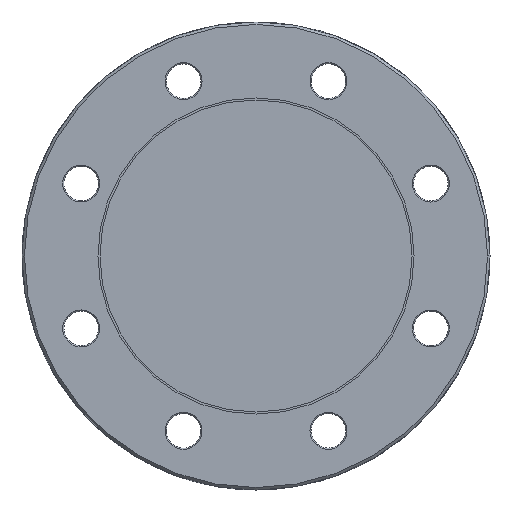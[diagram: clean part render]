
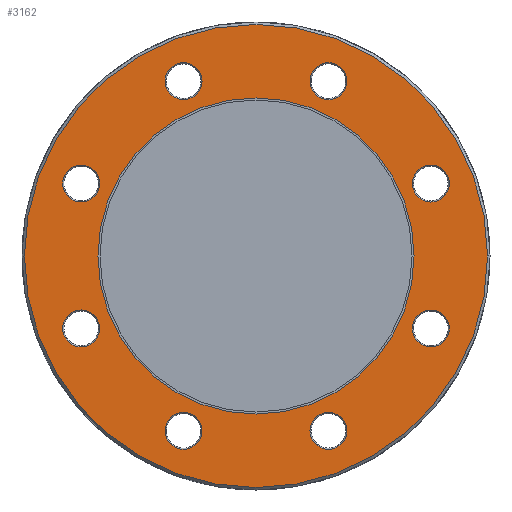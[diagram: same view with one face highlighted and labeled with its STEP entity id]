
A CAD part, left-side view. The second image highlights one B-rep face of the part: STEP entity #3162.
In plain terms, the highlighted planar face has unit normal (-1, 0, 0).
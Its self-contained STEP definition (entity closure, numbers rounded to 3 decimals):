
#1129=CARTESIAN_POINT('',(0.0,14.459,-45.773));
#1130=VERTEX_POINT('',#1129);
#1146=CARTESIAN_POINT('',(0.0,20.823,-39.409));
#1147=VERTEX_POINT('',#1146);
#1154=CARTESIAN_POINT('',(0.0,17.641,-42.591));
#1155=DIRECTION('',(-1.,0.0,0.0));
#1156=DIRECTION('',(0.0,-0.707,-0.707));
#1157=AXIS2_PLACEMENT_3D('',#1154,#1155,#1156);
#1158=CIRCLE('',#1157,4.5);
#1159=EDGE_CURVE('',#1147,#1130,#1158,.T.);
#1268=CARTESIAN_POINT('',(0.0,-22.142,-42.591));
#1269=VERTEX_POINT('',#1268);
#1285=CARTESIAN_POINT('',(0.0,-13.142,-42.591));
#1286=VERTEX_POINT('',#1285);
#1293=CARTESIAN_POINT('',(0.0,-17.642,-42.591));
#1294=DIRECTION('',(-1.0,0.0,0.0));
#1295=DIRECTION('',(0.0,-1.0,0.0));
#1296=AXIS2_PLACEMENT_3D('',#1293,#1294,#1295);
#1297=CIRCLE('',#1296,4.5);
#1298=EDGE_CURVE('',#1286,#1269,#1297,.T.);
#1407=CARTESIAN_POINT('',(0.0,-45.773,-14.46));
#1408=VERTEX_POINT('',#1407);
#1424=CARTESIAN_POINT('',(0.0,-39.409,-20.824));
#1425=VERTEX_POINT('',#1424);
#1432=CARTESIAN_POINT('',(0.0,-42.591,-17.642));
#1433=DIRECTION('',(-1.,0.0,0.0));
#1434=DIRECTION('',(0.0,-0.707,0.707));
#1435=AXIS2_PLACEMENT_3D('',#1432,#1433,#1434);
#1436=CIRCLE('',#1435,4.5);
#1437=EDGE_CURVE('',#1425,#1408,#1436,.T.);
#1546=CARTESIAN_POINT('',(0.0,-42.591,22.142));
#1547=VERTEX_POINT('',#1546);
#1563=CARTESIAN_POINT('',(0.0,-42.591,13.142));
#1564=VERTEX_POINT('',#1563);
#1571=CARTESIAN_POINT('',(0.0,-42.591,17.642));
#1572=DIRECTION('',(-1.0,0.0,0.0));
#1573=DIRECTION('',(0.0,0.0,1.0));
#1574=AXIS2_PLACEMENT_3D('',#1571,#1572,#1573);
#1575=CIRCLE('',#1574,4.5);
#1576=EDGE_CURVE('',#1564,#1547,#1575,.T.);
#1685=CARTESIAN_POINT('',(0.0,-14.46,45.773));
#1686=VERTEX_POINT('',#1685);
#1702=CARTESIAN_POINT('',(0.0,-20.824,39.409));
#1703=VERTEX_POINT('',#1702);
#1710=CARTESIAN_POINT('',(0.0,-17.642,42.591));
#1711=DIRECTION('',(-1.0,0.0,0.0));
#1712=DIRECTION('',(0.0,0.707,0.707));
#1713=AXIS2_PLACEMENT_3D('',#1710,#1711,#1712);
#1714=CIRCLE('',#1713,4.5);
#1715=EDGE_CURVE('',#1703,#1686,#1714,.T.);
#1824=CARTESIAN_POINT('',(0.0,22.141,42.591));
#1825=VERTEX_POINT('',#1824);
#1841=CARTESIAN_POINT('',(0.0,13.141,42.591));
#1842=VERTEX_POINT('',#1841);
#1849=CARTESIAN_POINT('',(0.0,17.641,42.591));
#1850=DIRECTION('',(-1.0,0.0,0.0));
#1851=DIRECTION('',(0.0,1.0,0.0));
#1852=AXIS2_PLACEMENT_3D('',#1849,#1850,#1851);
#1853=CIRCLE('',#1852,4.5);
#1854=EDGE_CURVE('',#1842,#1825,#1853,.T.);
#1963=CARTESIAN_POINT('',(0.0,45.772,14.46));
#1964=VERTEX_POINT('',#1963);
#1980=CARTESIAN_POINT('',(0.0,39.408,20.824));
#1981=VERTEX_POINT('',#1980);
#1988=CARTESIAN_POINT('',(0.0,42.59,17.642));
#1989=DIRECTION('',(-1.,0.0,0.0));
#1990=DIRECTION('',(0.0,0.707,-0.707));
#1991=AXIS2_PLACEMENT_3D('',#1988,#1989,#1990);
#1992=CIRCLE('',#1991,4.5);
#1993=EDGE_CURVE('',#1981,#1964,#1992,.T.);
#2102=CARTESIAN_POINT('',(0.0,42.59,-22.142));
#2103=VERTEX_POINT('',#2102);
#2119=CARTESIAN_POINT('',(0.0,42.59,-13.142));
#2120=VERTEX_POINT('',#2119);
#2127=CARTESIAN_POINT('',(0.0,42.59,-17.642));
#2128=DIRECTION('',(-1.0,0.0,0.0));
#2129=DIRECTION('',(0.0,0.0,-1.0));
#2130=AXIS2_PLACEMENT_3D('',#2127,#2128,#2129);
#2131=CIRCLE('',#2130,4.5);
#2132=EDGE_CURVE('',#2120,#2103,#2131,.T.);
#2326=CARTESIAN_POINT('',(0.0,-56.4,0.));
#2327=VERTEX_POINT('',#2326);
#2334=CARTESIAN_POINT('',(0.0,56.4,0.));
#2335=VERTEX_POINT('',#2334);
#2336=CARTESIAN_POINT('',(0.0,0.,0.0));
#2337=DIRECTION('',(1.0,0.0,0.0));
#2338=DIRECTION('',(0.0,-1.0,0.0));
#2339=AXIS2_PLACEMENT_3D('',#2336,#2337,#2338);
#2340=CIRCLE('',#2339,56.4);
#2341=EDGE_CURVE('',#2327,#2335,#2340,.T.);
#2396=CARTESIAN_POINT('',(0.0,38.5,0.0));
#2397=VERTEX_POINT('',#2396);
#2406=CARTESIAN_POINT('',(0.0,-38.5,0.));
#2407=VERTEX_POINT('',#2406);
#2408=CARTESIAN_POINT('',(0.0,0.,0.0));
#2409=DIRECTION('',(1.0,0.0,0.0));
#2410=DIRECTION('',(0.0,1.0,0.0));
#2411=AXIS2_PLACEMENT_3D('',#2408,#2409,#2410);
#2412=CIRCLE('',#2411,38.5);
#2413=EDGE_CURVE('',#2407,#2397,#2412,.T.);
#2447=CARTESIAN_POINT('',(0.0,0.,0.0));
#2448=DIRECTION('',(1.0,0.0,0.0));
#2449=DIRECTION('',(0.0,1.0,0.0));
#2450=AXIS2_PLACEMENT_3D('',#2447,#2448,#2449);
#2451=CIRCLE('',#2450,38.5);
#2452=EDGE_CURVE('',#2397,#2407,#2451,.T.);
#2509=CARTESIAN_POINT('',(0.0,0.,0.0));
#2510=DIRECTION('',(1.0,0.0,0.0));
#2511=DIRECTION('',(0.0,-1.0,0.0));
#2512=AXIS2_PLACEMENT_3D('',#2509,#2510,#2511);
#2513=CIRCLE('',#2512,56.4);
#2514=EDGE_CURVE('',#2335,#2327,#2513,.T.);
#2621=CARTESIAN_POINT('',(0.0,42.59,-17.642));
#2622=DIRECTION('',(-1.0,0.0,0.0));
#2623=DIRECTION('',(0.0,0.0,-1.0));
#2624=AXIS2_PLACEMENT_3D('',#2621,#2622,#2623);
#2625=CIRCLE('',#2624,4.5);
#2626=EDGE_CURVE('',#2103,#2120,#2625,.T.);
#2690=CARTESIAN_POINT('',(0.0,42.59,17.642));
#2691=DIRECTION('',(-1.,0.0,0.0));
#2692=DIRECTION('',(0.0,0.707,-0.707));
#2693=AXIS2_PLACEMENT_3D('',#2690,#2691,#2692);
#2694=CIRCLE('',#2693,4.5);
#2695=EDGE_CURVE('',#1964,#1981,#2694,.T.);
#2759=CARTESIAN_POINT('',(0.0,17.641,42.591));
#2760=DIRECTION('',(-1.0,0.0,0.0));
#2761=DIRECTION('',(0.0,1.0,0.0));
#2762=AXIS2_PLACEMENT_3D('',#2759,#2760,#2761);
#2763=CIRCLE('',#2762,4.5);
#2764=EDGE_CURVE('',#1825,#1842,#2763,.T.);
#2828=CARTESIAN_POINT('',(0.0,-17.642,42.591));
#2829=DIRECTION('',(-1.0,0.0,0.0));
#2830=DIRECTION('',(0.0,0.707,0.707));
#2831=AXIS2_PLACEMENT_3D('',#2828,#2829,#2830);
#2832=CIRCLE('',#2831,4.5);
#2833=EDGE_CURVE('',#1686,#1703,#2832,.T.);
#2897=CARTESIAN_POINT('',(0.0,-42.591,17.642));
#2898=DIRECTION('',(-1.0,0.0,0.0));
#2899=DIRECTION('',(0.0,0.0,1.0));
#2900=AXIS2_PLACEMENT_3D('',#2897,#2898,#2899);
#2901=CIRCLE('',#2900,4.5);
#2902=EDGE_CURVE('',#1547,#1564,#2901,.T.);
#2966=CARTESIAN_POINT('',(0.0,-42.591,-17.642));
#2967=DIRECTION('',(-1.,0.0,0.0));
#2968=DIRECTION('',(0.0,-0.707,0.707));
#2969=AXIS2_PLACEMENT_3D('',#2966,#2967,#2968);
#2970=CIRCLE('',#2969,4.5);
#2971=EDGE_CURVE('',#1408,#1425,#2970,.T.);
#3035=CARTESIAN_POINT('',(0.0,-17.642,-42.591));
#3036=DIRECTION('',(-1.0,0.0,0.0));
#3037=DIRECTION('',(0.0,-1.0,0.0));
#3038=AXIS2_PLACEMENT_3D('',#3035,#3036,#3037);
#3039=CIRCLE('',#3038,4.5);
#3040=EDGE_CURVE('',#1269,#1286,#3039,.T.);
#3111=CARTESIAN_POINT('',(0.0,47.75,0.0));
#3112=DIRECTION('',(-1.0,0.0,0.0));
#3113=DIRECTION('',(0.0,0.0,1.0));
#3114=AXIS2_PLACEMENT_3D('',#3111,#3112,#3113);
#3115=PLANE('',#3114);
#3116=ORIENTED_EDGE('',*,*,#2514,.F.);
#3117=ORIENTED_EDGE('',*,*,#2341,.F.);
#3118=EDGE_LOOP('',(#3116,#3117));
#3119=FACE_OUTER_BOUND('',#3118,.T.);
#3120=ORIENTED_EDGE('',*,*,#1298,.F.);
#3121=ORIENTED_EDGE('',*,*,#3040,.F.);
#3122=EDGE_LOOP('',(#3120,#3121));
#3123=FACE_BOUND('',#3122,.T.);
#3124=ORIENTED_EDGE('',*,*,#1576,.F.);
#3125=ORIENTED_EDGE('',*,*,#2902,.F.);
#3126=EDGE_LOOP('',(#3124,#3125));
#3127=FACE_BOUND('',#3126,.T.);
#3128=ORIENTED_EDGE('',*,*,#1854,.F.);
#3129=ORIENTED_EDGE('',*,*,#2764,.F.);
#3130=EDGE_LOOP('',(#3128,#3129));
#3131=FACE_BOUND('',#3130,.T.);
#3132=ORIENTED_EDGE('',*,*,#2132,.F.);
#3133=ORIENTED_EDGE('',*,*,#2626,.F.);
#3134=EDGE_LOOP('',(#3132,#3133));
#3135=FACE_BOUND('',#3134,.T.);
#3136=ORIENTED_EDGE('',*,*,#2452,.T.);
#3137=ORIENTED_EDGE('',*,*,#2413,.T.);
#3138=EDGE_LOOP('',(#3136,#3137));
#3139=FACE_BOUND('',#3138,.T.);
#3140=ORIENTED_EDGE('',*,*,#1993,.F.);
#3141=ORIENTED_EDGE('',*,*,#2695,.F.);
#3142=EDGE_LOOP('',(#3140,#3141));
#3143=FACE_BOUND('',#3142,.T.);
#3144=ORIENTED_EDGE('',*,*,#1715,.F.);
#3145=ORIENTED_EDGE('',*,*,#2833,.F.);
#3146=EDGE_LOOP('',(#3144,#3145));
#3147=FACE_BOUND('',#3146,.T.);
#3148=ORIENTED_EDGE('',*,*,#1437,.F.);
#3149=ORIENTED_EDGE('',*,*,#2971,.F.);
#3150=EDGE_LOOP('',(#3148,#3149));
#3151=FACE_BOUND('',#3150,.T.);
#3152=ORIENTED_EDGE('',*,*,#1159,.F.);
#3153=CARTESIAN_POINT('',(0.0,17.641,-42.591));
#3154=DIRECTION('',(-1.,0.0,0.0));
#3155=DIRECTION('',(0.0,-0.707,-0.707));
#3156=AXIS2_PLACEMENT_3D('',#3153,#3154,#3155);
#3157=CIRCLE('',#3156,4.5);
#3158=EDGE_CURVE('',#1130,#1147,#3157,.T.);
#3159=ORIENTED_EDGE('',*,*,#3158,.F.);
#3160=EDGE_LOOP('',(#3152,#3159));
#3161=FACE_BOUND('',#3160,.T.);
#3162=ADVANCED_FACE('',(#3119,#3123,#3127,#3131,#3135,#3139,#3143,#3147,#3151,#3161),#3115,.T.);
